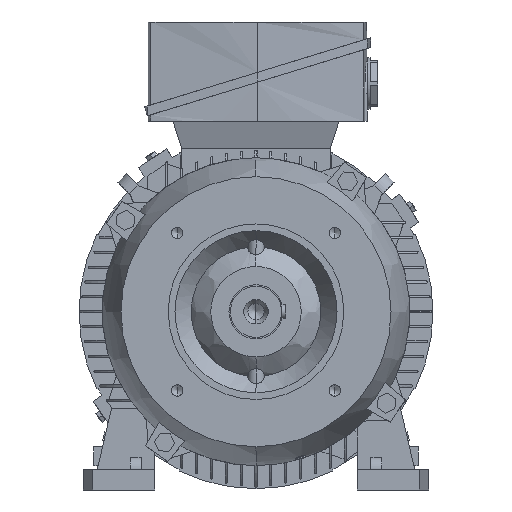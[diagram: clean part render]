
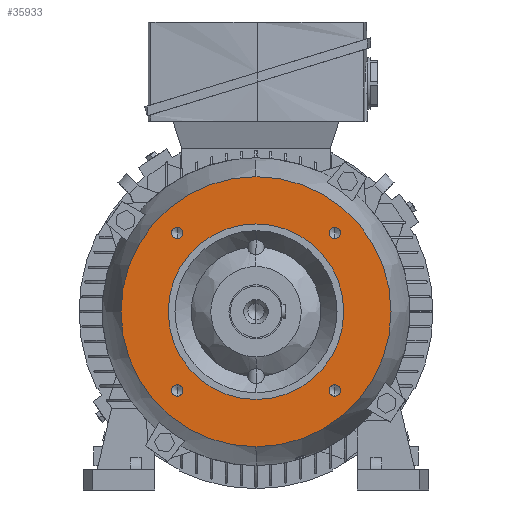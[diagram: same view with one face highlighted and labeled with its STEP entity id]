
A CAD part, left-side view. The second image highlights one B-rep face of the part: STEP entity #35933.
In plain terms, the highlighted planar face has unit normal (-1, 0, 0).
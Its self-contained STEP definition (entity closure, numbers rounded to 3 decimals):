
#200 = VERTEX_POINT ( 'NONE', #7833 ) ;
#546 = DIRECTION ( 'NONE',  ( 0., 0., -1. ) ) ;
#709 = CIRCLE ( 'NONE', #18502, 4.19 ) ;
#1029 = CARTESIAN_POINT ( 'NONE',  ( -50.5, -58.336, -54.146 ) ) ;
#1430 = CARTESIAN_POINT ( 'NONE',  ( -50.5, 58.336, -58.336 ) ) ;
#1794 = CARTESIAN_POINT ( 'NONE',  ( -50.5, -58.336, -62.526 ) ) ;
#2437 = AXIS2_PLACEMENT_3D ( 'NONE', #23061, #6792, #34761 ) ;
#3048 = CIRCLE ( 'NONE', #18147, 4.19 ) ;
#3522 = ORIENTED_EDGE ( 'NONE', *, *, #7330, .T. ) ;
#3555 = VERTEX_POINT ( 'NONE', #20158 ) ;
#3728 = ORIENTED_EDGE ( 'NONE', *, *, #6278, .T. ) ;
#3735 = CIRCLE ( 'NONE', #2437, 65. ) ;
#3808 = CIRCLE ( 'NONE', #18778, 4.19 ) ;
#4189 = ORIENTED_EDGE ( 'NONE', *, *, #6025, .T. ) ;
#5131 = EDGE_CURVE ( 'NONE', #16070, #13130, #9911, .T. ) ;
#5699 = EDGE_CURVE ( 'NONE', #8975, #200, #3808, .T. ) ;
#6025 = EDGE_CURVE ( 'NONE', #3555, #25768, #709, .T. ) ;
#6264 = CARTESIAN_POINT ( 'NONE',  ( -50.5, 0., 0. ) ) ;
#6278 = EDGE_CURVE ( 'NONE', #25768, #3555, #3048, .T. ) ;
#6450 = EDGE_CURVE ( 'NONE', #16330, #24092, #25712, .T. ) ;
#6481 = CARTESIAN_POINT ( 'NONE',  ( -50.5, 0., -65. ) ) ;
#6792 = DIRECTION ( 'NONE',  ( 1., 0., 0. ) ) ;
#7330 = EDGE_CURVE ( 'NONE', #13694, #33849, #35448, .T. ) ;
#7833 = CARTESIAN_POINT ( 'NONE',  ( -50.5, 58.336, 54.146 ) ) ;
#8006 = CARTESIAN_POINT ( 'NONE',  ( -50.5, -58.336, 62.526 ) ) ;
#8735 = EDGE_CURVE ( 'NONE', #11357, #9062, #17104, .T. ) ;
#8895 = ORIENTED_EDGE ( 'NONE', *, *, #35410, .T. ) ;
#8975 = VERTEX_POINT ( 'NONE', #11774 ) ;
#9014 = DIRECTION ( 'NONE',  ( 0., 0., -1. ) ) ;
#9062 = VERTEX_POINT ( 'NONE', #9855 ) ;
#9079 = DIRECTION ( 'NONE',  ( 1., 0., 0. ) ) ;
#9682 = ORIENTED_EDGE ( 'NONE', *, *, #20652, .T. ) ;
#9855 = CARTESIAN_POINT ( 'NONE',  ( -50.5, 0., 100. ) ) ;
#9911 = CIRCLE ( 'NONE', #19475, 65. ) ;
#10503 = CIRCLE ( 'NONE', #27095, 100. ) ;
#11183 = AXIS2_PLACEMENT_3D ( 'NONE', #35241, #35236, #35184 ) ;
#11357 = VERTEX_POINT ( 'NONE', #12558 ) ;
#11774 = CARTESIAN_POINT ( 'NONE',  ( -50.5, 58.336, 62.526 ) ) ;
#12342 = DIRECTION ( 'NONE',  ( 1., 0., 0. ) ) ;
#12558 = CARTESIAN_POINT ( 'NONE',  ( -50.5, 0., -100. ) ) ;
#12764 = EDGE_LOOP ( 'NONE', ( #13460, #19077 ) ) ;
#12896 = EDGE_CURVE ( 'NONE', #200, #8975, #22435, .T. ) ;
#12922 = CARTESIAN_POINT ( 'NONE',  ( -50.5, 58.336, -62.526 ) ) ;
#13130 = VERTEX_POINT ( 'NONE', #29262 ) ;
#13275 = CARTESIAN_POINT ( 'NONE',  ( -50.5, 0., 0. ) ) ;
#13413 = CARTESIAN_POINT ( 'NONE',  ( -50.5, 58.336, 58.336 ) ) ;
#13460 = ORIENTED_EDGE ( 'NONE', *, *, #8735, .F. ) ;
#13694 = VERTEX_POINT ( 'NONE', #8006 ) ;
#14020 = EDGE_LOOP ( 'NONE', ( #9682, #34655 ) ) ;
#14044 = ORIENTED_EDGE ( 'NONE', *, *, #27277, .T. ) ;
#14842 = EDGE_LOOP ( 'NONE', ( #34720, #35606 ) ) ;
#14957 = CARTESIAN_POINT ( 'NONE',  ( -50.5, 0., 82.5 ) ) ;
#15687 = AXIS2_PLACEMENT_3D ( 'NONE', #16152, #16078, #16002 ) ;
#15987 = EDGE_LOOP ( 'NONE', ( #14044, #3522 ) ) ;
#16002 = DIRECTION ( 'NONE',  ( 0., 0., -1. ) ) ;
#16070 = VERTEX_POINT ( 'NONE', #6481 ) ;
#16078 = DIRECTION ( 'NONE',  ( 1., 0., 0. ) ) ;
#16152 = CARTESIAN_POINT ( 'NONE',  ( -50.5, 0., 0. ) ) ;
#16330 = VERTEX_POINT ( 'NONE', #1029 ) ;
#16858 = DIRECTION ( 'NONE',  ( 1., 0., 0. ) ) ;
#17104 = CIRCLE ( 'NONE', #15687, 100. ) ;
#17221 = AXIS2_PLACEMENT_3D ( 'NONE', #27775, #22417, #21246 ) ;
#17223 = DIRECTION ( 'NONE',  ( 0., 0., -1. ) ) ;
#17291 = DIRECTION ( 'NONE',  ( 1., 0., 0. ) ) ;
#17348 = EDGE_LOOP ( 'NONE', ( #8895, #17919 ) ) ;
#17349 = CARTESIAN_POINT ( 'NONE',  ( -50.5, -58.336, -58.336 ) ) ;
#17637 = DIRECTION ( 'NONE',  ( 0., 0., 1. ) ) ;
#17919 = ORIENTED_EDGE ( 'NONE', *, *, #6450, .T. ) ;
#17999 = AXIS2_PLACEMENT_3D ( 'NONE', #17349, #17291, #17223 ) ;
#18076 = EDGE_LOOP ( 'NONE', ( #3728, #4189 ) ) ;
#18147 = AXIS2_PLACEMENT_3D ( 'NONE', #22635, #22671, #22720 ) ;
#18502 = AXIS2_PLACEMENT_3D ( 'NONE', #1430, #36190, #21008 ) ;
#18778 = AXIS2_PLACEMENT_3D ( 'NONE', #13413, #12342, #23287 ) ;
#19077 = ORIENTED_EDGE ( 'NONE', *, *, #30913, .F. ) ;
#19475 = AXIS2_PLACEMENT_3D ( 'NONE', #13275, #9079, #22286 ) ;
#19932 = AXIS2_PLACEMENT_3D ( 'NONE', #14957, #23034, #17637 ) ;
#20158 = CARTESIAN_POINT ( 'NONE',  ( -50.5, 58.336, -54.146 ) ) ;
#20652 = EDGE_CURVE ( 'NONE', #13130, #16070, #3735, .T. ) ;
#20658 = AXIS2_PLACEMENT_3D ( 'NONE', #33919, #16858, #546 ) ;
#21008 = DIRECTION ( 'NONE',  ( 0., 0., -1. ) ) ;
#21232 = DIRECTION ( 'NONE',  ( 0., 0., -1. ) ) ;
#21246 = DIRECTION ( 'NONE',  ( 0., 0., -1. ) ) ;
#21278 = DIRECTION ( 'NONE',  ( 1., 0., 0. ) ) ;
#21307 = CARTESIAN_POINT ( 'NONE',  ( -50.5, -58.336, 58.336 ) ) ;
#22286 = DIRECTION ( 'NONE',  ( 0., 0., 1. ) ) ;
#22394 = CIRCLE ( 'NONE', #31169, 4.19 ) ;
#22417 = DIRECTION ( 'NONE',  ( 1., 0., 0. ) ) ;
#22435 = CIRCLE ( 'NONE', #11183, 4.19 ) ;
#22635 = CARTESIAN_POINT ( 'NONE',  ( -50.5, 58.336, -58.336 ) ) ;
#22671 = DIRECTION ( 'NONE',  ( 1., 0., 0. ) ) ;
#22720 = DIRECTION ( 'NONE',  ( 0., 0., -1. ) ) ;
#23034 = DIRECTION ( 'NONE',  ( -1., 0., 0. ) ) ;
#23061 = CARTESIAN_POINT ( 'NONE',  ( -50.5, 0., 0. ) ) ;
#23287 = DIRECTION ( 'NONE',  ( 0., 0., -1. ) ) ;
#24092 = VERTEX_POINT ( 'NONE', #1794 ) ;
#24310 = CARTESIAN_POINT ( 'NONE',  ( -50.5, -58.336, 54.146 ) ) ;
#25413 = DIRECTION ( 'NONE',  ( 1., 0., 0. ) ) ;
#25712 = CIRCLE ( 'NONE', #17999, 4.19 ) ;
#25768 = VERTEX_POINT ( 'NONE', #12922 ) ;
#26501 = FACE_BOUND ( 'NONE', #15987, .T. ) ;
#26525 = FACE_OUTER_BOUND ( 'NONE', #12764, .T. ) ;
#26567 = FACE_BOUND ( 'NONE', #18076, .T. ) ;
#26698 = FACE_BOUND ( 'NONE', #14842, .T. ) ;
#26799 = FACE_BOUND ( 'NONE', #14020, .T. ) ;
#26862 = FACE_BOUND ( 'NONE', #17348, .T. ) ;
#27095 = AXIS2_PLACEMENT_3D ( 'NONE', #6264, #25413, #9014 ) ;
#27277 = EDGE_CURVE ( 'NONE', #33849, #13694, #22394, .T. ) ;
#27775 = CARTESIAN_POINT ( 'NONE',  ( -50.5, -58.336, 58.336 ) ) ;
#29262 = CARTESIAN_POINT ( 'NONE',  ( -50.5, 0., 65. ) ) ;
#30913 = EDGE_CURVE ( 'NONE', #9062, #11357, #10503, .T. ) ;
#31169 = AXIS2_PLACEMENT_3D ( 'NONE', #21307, #21278, #21232 ) ;
#31397 = CIRCLE ( 'NONE', #20658, 4.19 ) ;
#31808 = PLANE ( 'NONE',  #19932 ) ;
#33849 = VERTEX_POINT ( 'NONE', #24310 ) ;
#33919 = CARTESIAN_POINT ( 'NONE',  ( -50.5, -58.336, -58.336 ) ) ;
#34655 = ORIENTED_EDGE ( 'NONE', *, *, #5131, .T. ) ;
#34720 = ORIENTED_EDGE ( 'NONE', *, *, #12896, .T. ) ;
#34761 = DIRECTION ( 'NONE',  ( 0., 0., 1. ) ) ;
#35184 = DIRECTION ( 'NONE',  ( 0., 0., -1. ) ) ;
#35236 = DIRECTION ( 'NONE',  ( 1., 0., 0. ) ) ;
#35241 = CARTESIAN_POINT ( 'NONE',  ( -50.5, 58.336, 58.336 ) ) ;
#35410 = EDGE_CURVE ( 'NONE', #24092, #16330, #31397, .T. ) ;
#35448 = CIRCLE ( 'NONE', #17221, 4.19 ) ;
#35606 = ORIENTED_EDGE ( 'NONE', *, *, #5699, .T. ) ;
#35933 = ADVANCED_FACE ( 'NONE', ( #26799, #26525, #26698, #26567, #26862, #26501 ), #31808, .T. ) ;
#36190 = DIRECTION ( 'NONE',  ( 1., 0., 0. ) ) ;
